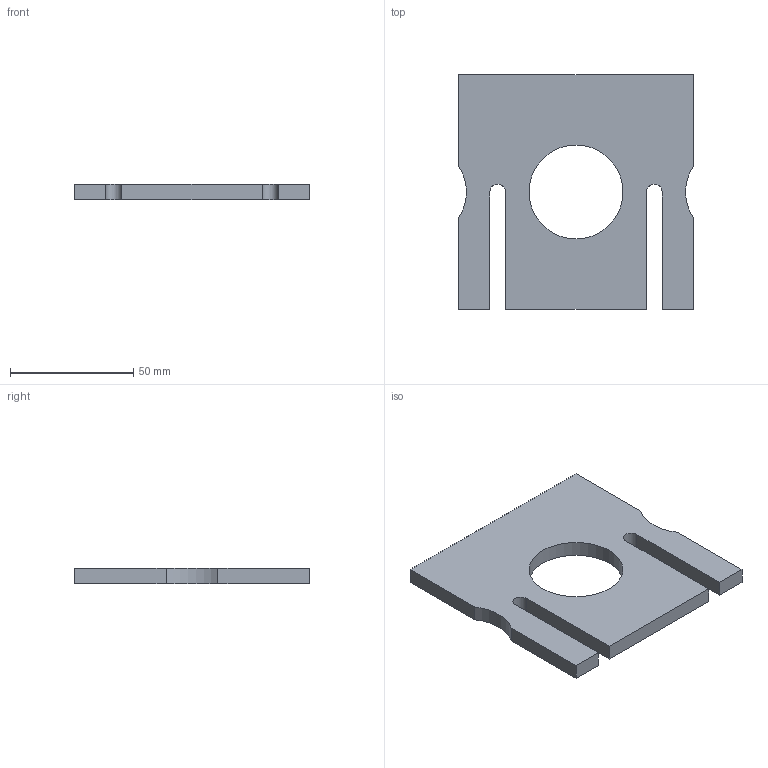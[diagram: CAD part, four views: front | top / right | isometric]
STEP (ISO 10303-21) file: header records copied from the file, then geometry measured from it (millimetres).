
FILE_DESCRIPTION((''),'2;1');
FILE_NAME('M:\jdazai\jdazai_home\private\Inventor Diagrams\maze parts\Waterjet Maze\micemaze_1-piece_holes_o.stp','2014-09-25T09:09:24',('jdazai'),(''),'Autodesk Inventor 2013','Autodesk Inventor 2013','');
FILE_SCHEMA(('AUTOMOTIVE_DESIGN { 1 0 10303 214 1 1 1 1 }'));
Length unit declared in the file: millimetre
Products named in the file (1): Part9
Bounding box: 95.25 x 95.25 x 6.35 mm (x, y, z)
Volume: 45753.1 mm3; surface area: 18861.5 mm2
Topology: 1 solids, 1 shells, 19 faces, 51 edges, 34 vertices
Faces by surface type: plane 14, cylinder 5
Full cylindrical faces by diameter (mm): 38.1 x1
Entity records: 620 total; most frequent: CARTESIAN_POINT 104, DIRECTION 100, ORIENTED_EDGE 100, EDGE_CURVE 50, VECTOR 40, LINE 40, VERTEX_POINT 34, AXIS2_PLACEMENT_3D 30
